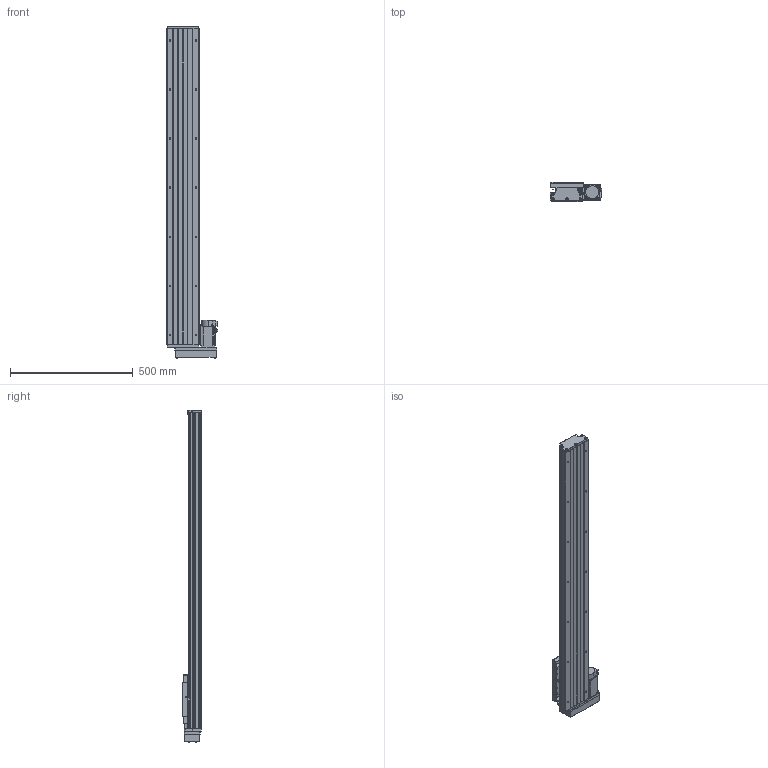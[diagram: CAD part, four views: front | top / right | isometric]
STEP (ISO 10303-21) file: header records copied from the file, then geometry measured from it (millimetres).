
FILE_DESCRIPTION (( 'STEP AP203' ), '1' );
FILE_NAME ('GTH14-1050-BR-M40-C4.step', '2023-06-30T08:52:12', ( '微软用户' ), ( '微软中国' ), 'SwSTEP 2.0', 'SolidWorks 2020', '' );
FILE_SCHEMA (( 'CONFIG_CONTROL_DESIGN' ));
Length unit declared in the file: millimetre
Products named in the file (19): GBT 70.1-M3℅5; GTH14-015-2_CTHA86-015-2; GTH14-005; GBT77-2000 M3×3; GTH14-033; GB1155-6X6; GTH14-031; GTH14-1050-BR-M40-C4; GBT70.1 M5℅16; GBT 70.2-M3¡Á5_M3¡Á6; CTHA60-017; す晦芛蹟隊 M3℅5; GTH14-001_1050; EE_SX911P_R; HG-KN43J-S100; GTH14-002_GTH14-002; CTHA60-016; GBT 70.2-M4¡Á35_M4¡Á35; GTH14-004
Assembly tree (58 placements, depth 2):
  GTH14-1050-BR-M40-C4
    GTH14-001_1050
    GTH14-002_GTH14-002
    GTH14-004
    GTH14-005
    GB1155-6X6  x2
    GBT70.1 M5℅16  x10
    CTHA60-017  x3
    EE_SX911P_R  x3
    CTHA60-016  x2
    GBT 70.1-M3℅5  x6
    GBT77-2000 M3×3  x6
    GTH14-031
    GBT 70.2-M3¡Á5_M3¡Á6  x8
    す晦芛蹟隊 M3℅5  x6
    HG-KN43J-S100
    GBT 70.2-M4¡Á35_M4¡Á35  x4
    GTH14-015-2_CTHA86-015-2
    GTH14-033
Bounding box: 209.3 x 78 x 1354.2 mm (x, y, z)
Volume: 7205997.4 mm3; surface area: 1154240.2 mm2
Topology: 61 solids, 61 shells, 2473 faces, 5881 edges, 3626 vertices
Faces by surface type: plane 1311, cylinder 672, cone 314, torus 124, sphere 32, bspline 20
Entity records: 44774 total; most frequent: CARTESIAN_POINT 9957, DIRECTION 6609, ORIENTED_EDGE 6452, EDGE_CURVE 3226, AXIS2_PLACEMENT_3D 2270, LINE 2069, VECTOR 2069, VERTEX_POINT 2044
